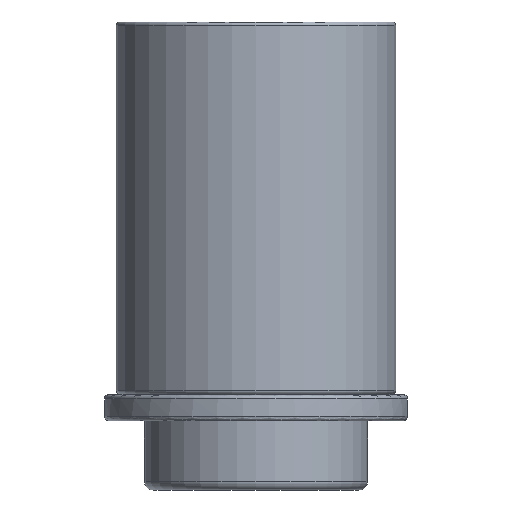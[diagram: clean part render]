
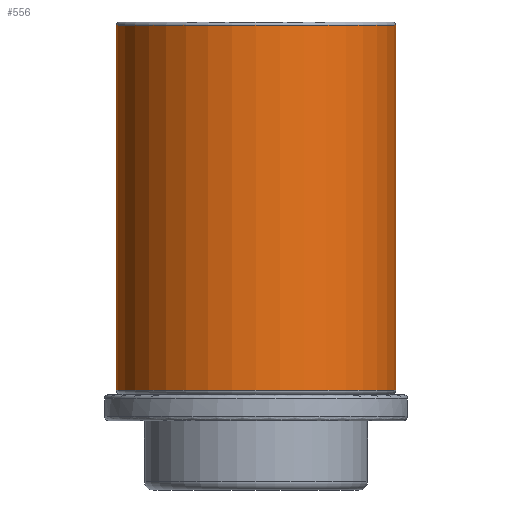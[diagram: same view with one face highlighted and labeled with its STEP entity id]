
A CAD part, front view. The second image highlights one B-rep face of the part: STEP entity #556.
In plain terms, the highlighted cylindrical face has radius 32.25 mm (diameter 64.5 mm), a full revolution.
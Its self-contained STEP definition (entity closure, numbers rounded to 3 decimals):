
#556=ADVANCED_FACE('',(#702,#703),#655,.T.);
#655=CYLINDRICAL_SURFACE('',#1834,32.25);
#702=FACE_BOUND('',#755,.T.);
#703=FACE_BOUND('',#756,.T.);
#755=EDGE_LOOP('',(#893));
#756=EDGE_LOOP('',(#894));
#893=ORIENTED_EDGE('',*,*,#1509,.T.);
#894=ORIENTED_EDGE('',*,*,#1510,.T.);
#1349=VERTEX_POINT('',#2542);
#1350=VERTEX_POINT('',#2544);
#1509=EDGE_CURVE('',#1349,#1349,#1741,.T.);
#1510=EDGE_CURVE('',#1350,#1350,#1742,.T.);
#1741=CIRCLE('',#1832,32.25);
#1742=CIRCLE('',#1833,32.25);
#1832=AXIS2_PLACEMENT_3D('',#2541,#2036,#2037);
#1833=AXIS2_PLACEMENT_3D('',#2543,#2038,#2039);
#1834=AXIS2_PLACEMENT_3D('',#2545,#2040,#2041);
#2036=DIRECTION('',(0.,0.,-1.));
#2037=DIRECTION('',(-1.,0.,0.));
#2038=DIRECTION('',(0.,0.,1.));
#2039=DIRECTION('',(-1.,0.,0.));
#2040=DIRECTION('',(0.,0.,-1.));
#2041=DIRECTION('',(-1.,0.,0.));
#2541=CARTESIAN_POINT('',(929.5,-38.,-26.15));
#2542=CARTESIAN_POINT('',(897.25,-38.,-26.15));
#2543=CARTESIAN_POINT('',(929.5,-38.,-110.4));
#2544=CARTESIAN_POINT('',(897.25,-38.,-110.4));
#2545=CARTESIAN_POINT('',(929.5,-38.,-28.4));
